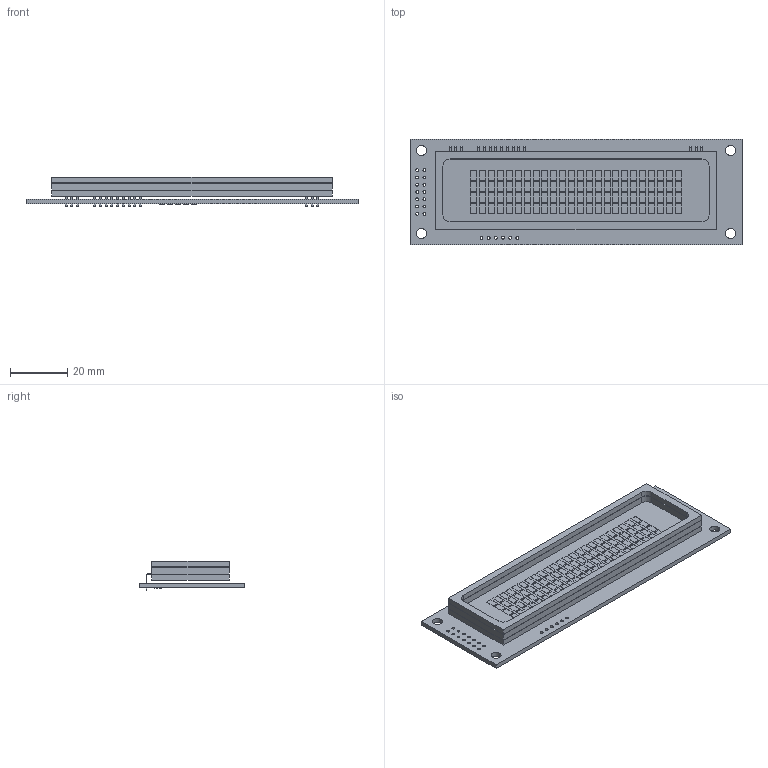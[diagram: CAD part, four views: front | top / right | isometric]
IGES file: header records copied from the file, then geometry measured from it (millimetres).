
Start section:  PTC IGES file: cu24043-y.igs
Global section: file name: cu24043-y.igs; native system: Pro/ENGINEER by Parametric Technology Corporation; preprocessor: 2010280; author: samx; organization: Unknown; date: 20140522.110901; units: millimetre
Bounding box: 116 x 37 x 10.3 mm (x, y, z)
Volume: 14786.3 mm3; surface area: 19638.5 mm2
Topology: 2 solids, 2 shells, 828 faces, 2202 edges, 1458 vertices
Faces by surface type: bspline 742, revolution 86
